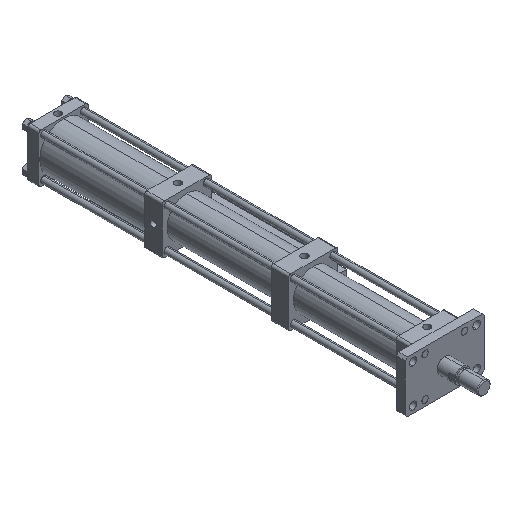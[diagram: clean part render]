
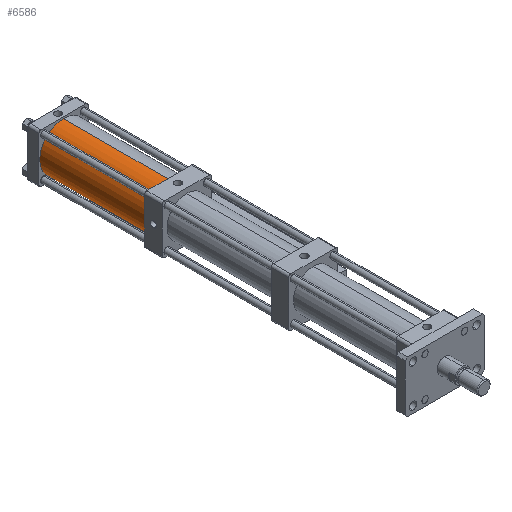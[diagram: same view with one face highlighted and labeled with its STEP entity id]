
A CAD part, isometric view. The second image highlights one B-rep face of the part: STEP entity #6586.
In plain terms, the highlighted cylindrical face has radius 54 mm (diameter 108 mm), a partial arc.
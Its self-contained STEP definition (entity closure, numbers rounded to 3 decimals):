
#224 = CARTESIAN_POINT ( 'NONE',  ( 0., 869.002, -1.638 ) ) ;
#515 = DIRECTION ( 'NONE',  ( 0., 0., 1. ) ) ;
#2028 = VERTEX_POINT ( 'NONE', #7544 ) ;
#2080 = FACE_OUTER_BOUND ( 'NONE', #6691, .T. ) ;
#2095 = ORIENTED_EDGE ( 'NONE', *, *, #7048, .F. ) ;
#2401 = VERTEX_POINT ( 'NONE', #7726 ) ;
#2866 = DIRECTION ( 'NONE',  ( 0., 1., 0. ) ) ;
#2878 = CIRCLE ( 'NONE', #5605, 54. ) ;
#3305 = VECTOR ( 'NONE', #3562, 1000. ) ;
#3478 = AXIS2_PLACEMENT_3D ( 'NONE', #6537, #2866, #7145 ) ;
#3498 = CYLINDRICAL_SURFACE ( 'NONE', #6324, 54. ) ;
#3531 = EDGE_CURVE ( 'NONE', #5666, #2028, #5479, .T. ) ;
#3562 = DIRECTION ( 'NONE',  ( 0., -1., 0. ) ) ;
#3914 = DIRECTION ( 'NONE',  ( 0., -1., 0. ) ) ;
#4180 = DIRECTION ( 'NONE',  ( 0., 1., 0. ) ) ;
#4359 = ORIENTED_EDGE ( 'NONE', *, *, #5809, .T. ) ;
#4619 = EDGE_CURVE ( 'NONE', #5666, #2401, #2878, .T. ) ;
#5479 = LINE ( 'NONE', #6975, #7111 ) ;
#5534 = ORIENTED_EDGE ( 'NONE', *, *, #4619, .F. ) ;
#5605 = AXIS2_PLACEMENT_3D ( 'NONE', #7865, #4180, #515 ) ;
#5666 = VERTEX_POINT ( 'NONE', #6884 ) ;
#5809 = EDGE_CURVE ( 'NONE', #2028, #5857, #7681, .T. ) ;
#5857 = VERTEX_POINT ( 'NONE', #7784 ) ;
#6324 = AXIS2_PLACEMENT_3D ( 'NONE', #224, #3914, #7587 ) ;
#6537 = CARTESIAN_POINT ( 'NONE',  ( 0., 628.002, -1.638 ) ) ;
#6586 = ADVANCED_FACE ( 'NONE', ( #2080 ), #3498, .T. ) ;
#6600 = CARTESIAN_POINT ( 'NONE',  ( 0., 869.002, 52.362 ) ) ;
#6691 = EDGE_LOOP ( 'NONE', ( #2095, #5534, #7563, #4359 ) ) ;
#6758 = LINE ( 'NONE', #6600, #3305 ) ;
#6884 = CARTESIAN_POINT ( 'NONE',  ( 0., 869.002, -55.638 ) ) ;
#6975 = CARTESIAN_POINT ( 'NONE',  ( 0., 869.002, -55.638 ) ) ;
#7048 = EDGE_CURVE ( 'NONE', #2401, #5857, #6758, .T. ) ;
#7111 = VECTOR ( 'NONE', #7582, 1000. ) ;
#7145 = DIRECTION ( 'NONE',  ( 0., 0., 1. ) ) ;
#7544 = CARTESIAN_POINT ( 'NONE',  ( 0., 628.002, -55.638 ) ) ;
#7563 = ORIENTED_EDGE ( 'NONE', *, *, #3531, .T. ) ;
#7582 = DIRECTION ( 'NONE',  ( 0., -1., 0. ) ) ;
#7587 = DIRECTION ( 'NONE',  ( 0., 0., -1. ) ) ;
#7681 = CIRCLE ( 'NONE', #3478, 54. ) ;
#7726 = CARTESIAN_POINT ( 'NONE',  ( 0., 869.002, 52.362 ) ) ;
#7784 = CARTESIAN_POINT ( 'NONE',  ( 0., 628.002, 52.362 ) ) ;
#7865 = CARTESIAN_POINT ( 'NONE',  ( 0., 869.002, -1.638 ) ) ;
